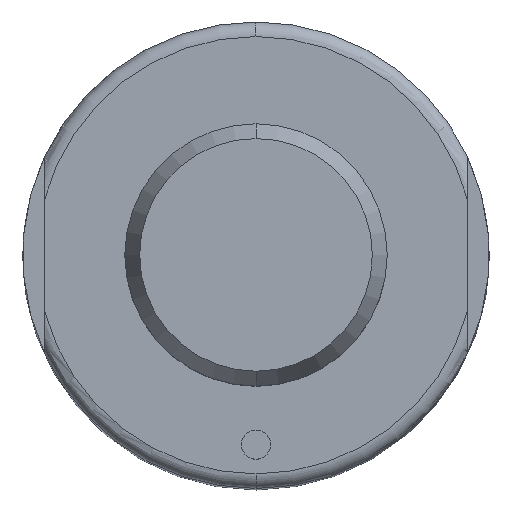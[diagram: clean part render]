
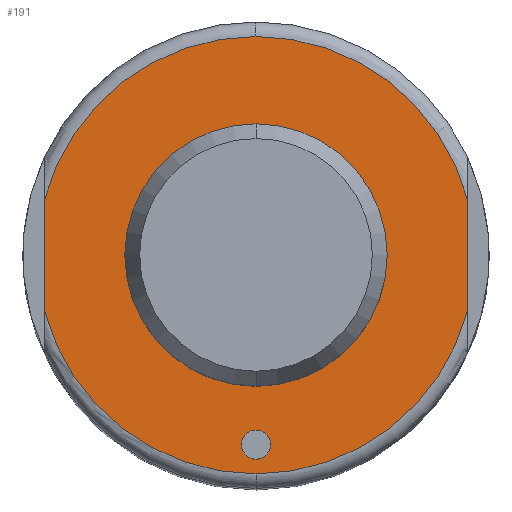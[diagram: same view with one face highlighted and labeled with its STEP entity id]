
A CAD part, top view. The second image highlights one B-rep face of the part: STEP entity #191.
In plain terms, the highlighted planar face has unit normal (0, 0, 1).
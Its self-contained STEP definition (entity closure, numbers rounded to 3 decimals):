
#115=FACE_BOUND('',#292,.T.);
#116=FACE_BOUND('',#293,.T.);
#117=FACE_BOUND('',#294,.T.);
#126=PLANE('',#862);
#191=ADVANCED_FACE('',(#115,#116,#117),#126,.T.);
#292=EDGE_LOOP('',(#515,#516,#517,#518,#519,#520));
#293=EDGE_LOOP('',(#521,#522));
#294=EDGE_LOOP('',(#523,#524));
#303=CIRCLE('',#774,9.);
#304=CIRCLE('',#776,9.);
#310=CIRCLE('',#786,1.);
#311=CIRCLE('',#788,1.);
#343=CIRCLE('',#846,15.);
#344=CIRCLE('',#848,15.);
#348=CIRCLE('',#854,15.);
#352=CIRCLE('',#860,15.);
#515=ORIENTED_EDGE('',*,*,#691,.F.);
#516=ORIENTED_EDGE('',*,*,#690,.F.);
#517=ORIENTED_EDGE('',*,*,#674,.F.);
#518=ORIENTED_EDGE('',*,*,#692,.F.);
#519=ORIENTED_EDGE('',*,*,#672,.F.);
#520=ORIENTED_EDGE('',*,*,#683,.F.);
#521=ORIENTED_EDGE('',*,*,#621,.F.);
#522=ORIENTED_EDGE('',*,*,#620,.F.);
#523=ORIENTED_EDGE('',*,*,#610,.T.);
#524=ORIENTED_EDGE('',*,*,#608,.T.);
#545=VERTEX_POINT('',#1117);
#546=VERTEX_POINT('',#1119);
#551=VERTEX_POINT('',#1138);
#554=VERTEX_POINT('',#1143);
#586=VERTEX_POINT('',#1259);
#588=VERTEX_POINT('',#1263);
#589=VERTEX_POINT('',#1274);
#591=VERTEX_POINT('',#1277);
#595=VERTEX_POINT('',#1298);
#600=VERTEX_POINT('',#1319);
#608=EDGE_CURVE('',#546,#545,#303,.T.);
#610=EDGE_CURVE('',#545,#546,#304,.T.);
#620=EDGE_CURVE('',#554,#551,#310,.T.);
#621=EDGE_CURVE('',#551,#554,#311,.T.);
#672=EDGE_CURVE('',#588,#586,#343,.T.);
#674=EDGE_CURVE('',#589,#591,#344,.T.);
#683=EDGE_CURVE('',#595,#588,#348,.T.);
#690=EDGE_CURVE('',#591,#600,#352,.T.);
#691=EDGE_CURVE('',#600,#595,#727,.T.);
#692=EDGE_CURVE('',#586,#589,#728,.T.);
#727=LINE('',#1322,#763);
#728=LINE('',#1323,#764);
#763=VECTOR('',#1089,1.);
#764=VECTOR('',#1090,1.);
#774=AXIS2_PLACEMENT_3D('',#1118,#884,#885);
#776=AXIS2_PLACEMENT_3D('',#1122,#889,#890);
#786=AXIS2_PLACEMENT_3D('',#1144,#913,#914);
#788=AXIS2_PLACEMENT_3D('',#1146,#917,#918);
#846=AXIS2_PLACEMENT_3D('',#1264,#1051,#1052);
#848=AXIS2_PLACEMENT_3D('',#1276,#1055,#1056);
#854=AXIS2_PLACEMENT_3D('',#1300,#1071,#1072);
#860=AXIS2_PLACEMENT_3D('',#1320,#1085,#1086);
#862=AXIS2_PLACEMENT_3D('',#1324,#1091,#1092);
#884=DIRECTION('',(0.,0.,-1.));
#885=DIRECTION('',(-1.,0.,0.));
#889=DIRECTION('',(0.,0.,-1.));
#890=DIRECTION('',(1.,0.,0.));
#913=DIRECTION('',(0.,0.,1.));
#914=DIRECTION('',(-1.,0.,0.));
#917=DIRECTION('',(0.,0.,1.));
#918=DIRECTION('',(1.,0.,0.));
#1051=DIRECTION('',(0.,0.,-1.));
#1052=DIRECTION('',(-1.,0.,0.));
#1055=DIRECTION('',(0.,0.,-1.));
#1056=DIRECTION('',(-1.,0.,0.));
#1071=DIRECTION('',(0.,0.,-1.));
#1072=DIRECTION('',(1.,0.,0.));
#1085=DIRECTION('',(0.,0.,-1.));
#1086=DIRECTION('',(1.,0.,0.));
#1089=DIRECTION('',(0.,1.,0.));
#1090=DIRECTION('',(0.,-1.,0.));
#1091=DIRECTION('',(0.,0.,1.));
#1092=DIRECTION('',(1.,0.,0.));
#1117=CARTESIAN_POINT('',(0.,-9.,63.));
#1118=CARTESIAN_POINT('',(0.,0.,63.));
#1119=CARTESIAN_POINT('',(0.,9.,63.));
#1122=CARTESIAN_POINT('',(0.,0.,63.));
#1138=CARTESIAN_POINT('',(0.,-12.,63.));
#1143=CARTESIAN_POINT('',(0.,-14.,63.));
#1144=CARTESIAN_POINT('',(0.,-13.,63.));
#1146=CARTESIAN_POINT('',(0.,-13.,63.));
#1259=CARTESIAN_POINT('',(14.5,3.841,63.));
#1263=CARTESIAN_POINT('',(0.,15.,63.));
#1264=CARTESIAN_POINT('',(0.,0.,63.));
#1274=CARTESIAN_POINT('',(14.5,-3.841,63.));
#1276=CARTESIAN_POINT('',(0.,0.,63.));
#1277=CARTESIAN_POINT('',(0.,-15.,63.));
#1298=CARTESIAN_POINT('',(-14.5,3.841,63.));
#1300=CARTESIAN_POINT('',(0.,0.,63.));
#1319=CARTESIAN_POINT('',(-14.5,-3.841,63.));
#1320=CARTESIAN_POINT('',(0.,0.,63.));
#1322=CARTESIAN_POINT('',(-14.5,0.,63.));
#1323=CARTESIAN_POINT('',(14.5,0.,63.));
#1324=CARTESIAN_POINT('',(0.,0.,63.));
